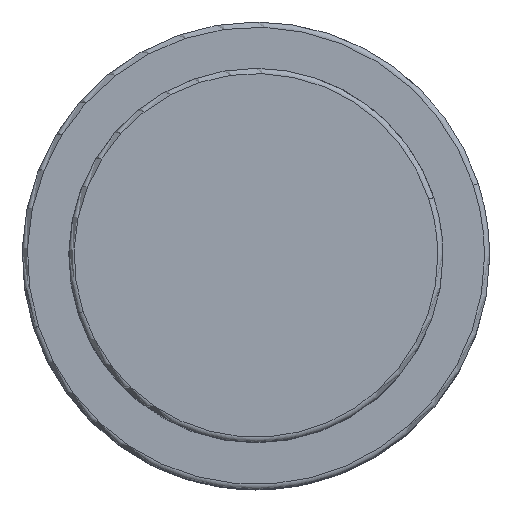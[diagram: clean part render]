
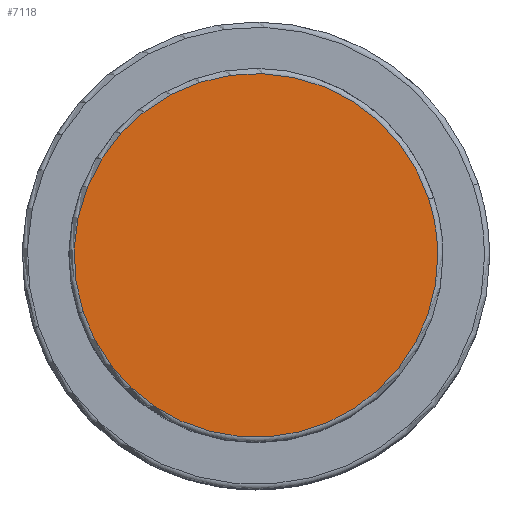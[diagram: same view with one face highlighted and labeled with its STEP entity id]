
A CAD part, top view. The second image highlights one B-rep face of the part: STEP entity #7118.
In plain terms, the highlighted planar face has unit normal (0, 0, 1).
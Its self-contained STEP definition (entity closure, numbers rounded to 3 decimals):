
#7084=CARTESIAN_POINT('',(17.5,0.0,48.0));
#7085=VERTEX_POINT('',#7084);
#7086=CARTESIAN_POINT('',(16.643,5.408,48.0));
#7087=VERTEX_POINT('',#7086);
#7088=CARTESIAN_POINT('',(0.0,0.0,48.0));
#7089=DIRECTION('',(0.0,0.0,1.0));
#7090=DIRECTION('',(1.0,0.0,0.0));
#7091=AXIS2_PLACEMENT_3D('',#7088,#7089,#7090);
#7092=CIRCLE('',#7091,17.5);
#7093=EDGE_CURVE('no 3617',#7085,#7087,#7092,.T.);
#7094=ORIENTED_EDGE('',*,*,#7093,.T.);
#7095=CARTESIAN_POINT('',(-16.643,-5.408,48.0));
#7096=VERTEX_POINT('',#7095);
#7097=CARTESIAN_POINT('',(0.0,0.0,48.0));
#7098=DIRECTION('',(0.0,0.0,1.0));
#7099=DIRECTION('',(1.0,0.0,0.0));
#7100=AXIS2_PLACEMENT_3D('',#7097,#7098,#7099);
#7101=CIRCLE('',#7100,17.5);
#7102=EDGE_CURVE('no 3623',#7087,#7096,#7101,.T.);
#7103=ORIENTED_EDGE('',*,*,#7102,.T.);
#7104=CARTESIAN_POINT('',(0.0,0.0,48.0));
#7105=DIRECTION('',(0.0,0.0,1.0));
#7106=DIRECTION('',(1.0,0.0,0.0));
#7107=AXIS2_PLACEMENT_3D('',#7104,#7105,#7106);
#7108=CIRCLE('',#7107,17.5);
#7109=EDGE_CURVE('no 3627',#7096,#7085,#7108,.T.);
#7110=ORIENTED_EDGE('',*,*,#7109,.T.);
#7111=EDGE_LOOP('',(#7094,#7103,#7110));
#7112=FACE_OUTER_BOUND('',#7111,.T.);
#7113=CARTESIAN_POINT('',(0.0,0.0,48.0));
#7114=DIRECTION('',(0.0,0.0,1.0));
#7115=DIRECTION('',(1.0,0.0,0.0));
#7116=AXIS2_PLACEMENT_3D('',#7113,#7114,#7115);
#7117=PLANE('',#7116);
#7118=ADVANCED_FACE('no 3608',(#7112),#7117,.T.);
